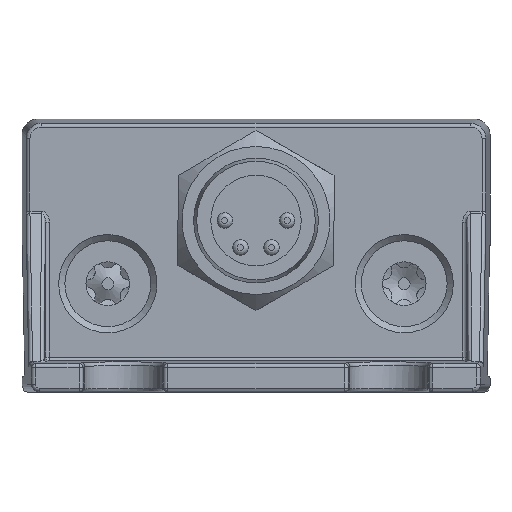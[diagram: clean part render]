
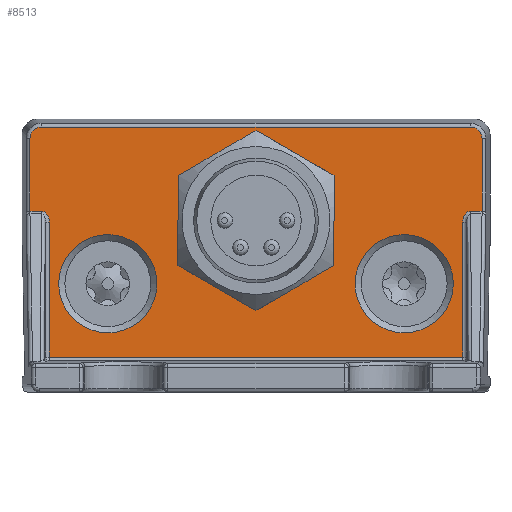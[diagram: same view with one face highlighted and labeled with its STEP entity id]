
A CAD part, front view. The second image highlights one B-rep face of the part: STEP entity #8513.
In plain terms, the highlighted planar face has unit normal (0, -1, 0).
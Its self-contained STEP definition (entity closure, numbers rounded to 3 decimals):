
#218=ELLIPSE('',#9087,0.707,0.5);
#219=ELLIPSE('',#9088,0.707,0.5);
#220=ELLIPSE('',#9089,0.75,0.75);
#221=ELLIPSE('',#9090,0.75,0.75);
#586=FACE_BOUND('',#1337,.T.);
#587=FACE_BOUND('',#1338,.T.);
#588=FACE_BOUND('',#1339,.T.);
#622=PLANE('',#9086);
#831=FACE_OUTER_BOUND('',#1336,.T.);
#1336=EDGE_LOOP('',(#5615,#5616,#5617,#5618,#5619,#5620,#5621,#5622,#5623,
#5624,#5625,#5626));
#1337=EDGE_LOOP('',(#5627,#5628,#5629,#5630,#5631,#5632));
#1338=EDGE_LOOP('',(#5633));
#1339=EDGE_LOOP('',(#5634));
#1811=LINE('',#12488,#2417);
#1814=LINE('',#12493,#2420);
#1816=LINE('',#12497,#2422);
#1818=LINE('',#12501,#2424);
#1819=LINE('',#12504,#2425);
#1821=LINE('',#12507,#2427);
#1892=LINE('',#12882,#2498);
#1893=LINE('',#12884,#2499);
#1894=LINE('',#12886,#2500);
#1895=LINE('',#12890,#2501);
#1896=LINE('',#12892,#2502);
#1897=LINE('',#12896,#2503);
#1898=LINE('',#12900,#2504);
#1899=LINE('',#12901,#2505);
#2417=VECTOR('',#9955,10.);
#2420=VECTOR('',#9960,10.);
#2422=VECTOR('',#9964,10.);
#2424=VECTOR('',#9968,10.);
#2425=VECTOR('',#9971,10.);
#2427=VECTOR('',#9975,10.);
#2498=VECTOR('',#10218,1.);
#2499=VECTOR('',#10219,1.);
#2500=VECTOR('',#10220,1.);
#2501=VECTOR('',#10223,1.);
#2502=VECTOR('',#10224,1.);
#2503=VECTOR('',#10227,1.);
#2504=VECTOR('',#10230,1.);
#2505=VECTOR('',#10231,1.);
#3062=CIRCLE('',#9073,3.15);
#3065=CIRCLE('',#9077,3.15);
#3384=VERTEX_POINT('',#12485);
#3385=VERTEX_POINT('',#12487);
#3386=VERTEX_POINT('',#12491);
#3387=VERTEX_POINT('',#12495);
#3388=VERTEX_POINT('',#12499);
#3389=VERTEX_POINT('',#12503);
#3463=VERTEX_POINT('',#12798);
#3466=VERTEX_POINT('',#12806);
#3497=VERTEX_POINT('',#12878);
#3498=VERTEX_POINT('',#12879);
#3499=VERTEX_POINT('',#12881);
#3500=VERTEX_POINT('',#12883);
#3501=VERTEX_POINT('',#12885);
#3502=VERTEX_POINT('',#12887);
#3503=VERTEX_POINT('',#12889);
#3504=VERTEX_POINT('',#12891);
#3505=VERTEX_POINT('',#12893);
#3506=VERTEX_POINT('',#12895);
#3507=VERTEX_POINT('',#12897);
#3508=VERTEX_POINT('',#12899);
#4168=EDGE_CURVE('',#3385,#3384,#1811,.T.);
#4171=EDGE_CURVE('',#3384,#3386,#1814,.T.);
#4173=EDGE_CURVE('',#3386,#3387,#1816,.T.);
#4175=EDGE_CURVE('',#3387,#3388,#1818,.T.);
#4176=EDGE_CURVE('',#3389,#3385,#1819,.T.);
#4178=EDGE_CURVE('',#3388,#3389,#1821,.T.);
#4264=EDGE_CURVE('',#3463,#3463,#3062,.T.);
#4268=EDGE_CURVE('',#3466,#3466,#3065,.T.);
#4303=EDGE_CURVE('',#3497,#3498,#218,.T.);
#4304=EDGE_CURVE('',#3499,#3497,#1892,.T.);
#4305=EDGE_CURVE('',#3499,#3500,#1893,.T.);
#4306=EDGE_CURVE('',#3501,#3500,#1894,.T.);
#4307=EDGE_CURVE('',#3502,#3501,#219,.T.);
#4308=EDGE_CURVE('',#3502,#3503,#1895,.T.);
#4309=EDGE_CURVE('',#3503,#3504,#1896,.T.);
#4310=EDGE_CURVE('',#3504,#3505,#220,.T.);
#4311=EDGE_CURVE('',#3505,#3506,#1897,.T.);
#4312=EDGE_CURVE('',#3506,#3507,#221,.T.);
#4313=EDGE_CURVE('',#3507,#3508,#1898,.T.);
#4314=EDGE_CURVE('',#3508,#3498,#1899,.T.);
#5615=ORIENTED_EDGE('',*,*,#4303,.F.);
#5616=ORIENTED_EDGE('',*,*,#4304,.F.);
#5617=ORIENTED_EDGE('',*,*,#4305,.T.);
#5618=ORIENTED_EDGE('',*,*,#4306,.F.);
#5619=ORIENTED_EDGE('',*,*,#4307,.F.);
#5620=ORIENTED_EDGE('',*,*,#4308,.T.);
#5621=ORIENTED_EDGE('',*,*,#4309,.T.);
#5622=ORIENTED_EDGE('',*,*,#4310,.T.);
#5623=ORIENTED_EDGE('',*,*,#4311,.T.);
#5624=ORIENTED_EDGE('',*,*,#4312,.T.);
#5625=ORIENTED_EDGE('',*,*,#4313,.T.);
#5626=ORIENTED_EDGE('',*,*,#4314,.T.);
#5627=ORIENTED_EDGE('',*,*,#4168,.T.);
#5628=ORIENTED_EDGE('',*,*,#4171,.T.);
#5629=ORIENTED_EDGE('',*,*,#4173,.T.);
#5630=ORIENTED_EDGE('',*,*,#4175,.T.);
#5631=ORIENTED_EDGE('',*,*,#4178,.T.);
#5632=ORIENTED_EDGE('',*,*,#4176,.T.);
#5633=ORIENTED_EDGE('',*,*,#4264,.T.);
#5634=ORIENTED_EDGE('',*,*,#4268,.T.);
#8513=ADVANCED_FACE('',(#831,#586,#587,#588),#622,.T.);
#9073=AXIS2_PLACEMENT_3D('',#12800,#10157,#10158);
#9077=AXIS2_PLACEMENT_3D('',#12808,#10166,#10167);
#9086=AXIS2_PLACEMENT_3D('',#12877,#10214,#10215);
#9087=AXIS2_PLACEMENT_3D('',#12880,#10216,#10217);
#9088=AXIS2_PLACEMENT_3D('',#12888,#10221,#10222);
#9089=AXIS2_PLACEMENT_3D('',#12894,#10225,#10226);
#9090=AXIS2_PLACEMENT_3D('',#12898,#10228,#10229);
#9955=DIRECTION('',(0.,0.,-1.));
#9960=DIRECTION('',(-0.866,0.,-0.5));
#9964=DIRECTION('',(-0.866,0.,0.5));
#9968=DIRECTION('',(0.,0.,1.));
#9971=DIRECTION('',(0.866,0.,-0.5));
#9975=DIRECTION('',(0.866,0.,0.5));
#10157=DIRECTION('center_axis',(0.,1.,0.));
#10158=DIRECTION('ref_axis',(0.,0.,
-1.));
#10166=DIRECTION('center_axis',(0.,1.,0.));
#10167=DIRECTION('ref_axis',(0.,0.,
-1.));
#10214=DIRECTION('center_axis',(0.,-1.,0.));
#10215=DIRECTION('ref_axis',(0.,0.,
1.));
#10216=DIRECTION('center_axis',(0.,-1.,0.));
#10217=DIRECTION('ref_axis',(0.009,0.,
1.));
#10218=DIRECTION('',(0.,0.,1.));
#10219=DIRECTION('',(1.,0.,0.));
#10220=DIRECTION('',(0.,0.,-1.));
#10221=DIRECTION('center_axis',(0.,-1.,0.));
#10222=DIRECTION('ref_axis',(-0.009,0.,
1.));
#10223=DIRECTION('',(1.,0.,0.));
#10224=DIRECTION('',(0.,0.,1.));
#10225=DIRECTION('center_axis',(0.,-1.,0.));
#10226=DIRECTION('ref_axis',(0.707,0.,0.707));
#10227=DIRECTION('',(-1.,0.,0.));
#10228=DIRECTION('center_axis',(0.,-1.,0.));
#10229=DIRECTION('ref_axis',(-0.707,0.,0.707));
#10230=DIRECTION('',(0.,0.,-1.));
#10231=DIRECTION('',(1.,0.,0.));
#12485=CARTESIAN_POINT('',(-33.127,-212.291,-12.18));
#12487=CARTESIAN_POINT('',(-33.127,-212.291,-6.406));
#12488=CARTESIAN_POINT('',(-33.127,-212.291,-11.861));
#12491=CARTESIAN_POINT('',(-38.127,-212.291,-15.066));
#12493=CARTESIAN_POINT('',(-37.364,-212.291,-14.626));
#12495=CARTESIAN_POINT('',(-43.127,-212.291,-12.179));
#12497=CARTESIAN_POINT('',(-41.39,-212.291,-13.182));
#12499=CARTESIAN_POINT('',(-43.127,-212.291,-6.405));
#12501=CARTESIAN_POINT('',(-43.127,-212.291,-8.974));
#12503=CARTESIAN_POINT('',(-38.127,-212.291,-3.519));
#12504=CARTESIAN_POINT('',(-33.889,-212.291,-5.966));
#12507=CARTESIAN_POINT('',(-39.864,-212.291,-4.522));
#12798=CARTESIAN_POINT('',(-47.627,-212.291,-16.492));
#12800=CARTESIAN_POINT('Origin',(-47.627,-212.291,-13.342));
#12806=CARTESIAN_POINT('',(-28.627,-212.291,-16.492));
#12808=CARTESIAN_POINT('Origin',(-28.627,-212.291,-13.342));
#12877=CARTESIAN_POINT('Origin',(-38.127,-212.291,-11.542));
#12878=CARTESIAN_POINT('',(-51.379,-212.291,-9.392));
#12879=CARTESIAN_POINT('',(-51.876,-212.291,-8.689));
#12880=CARTESIAN_POINT('Origin',(-51.879,-212.291,-9.396));
#12881=CARTESIAN_POINT('',(-51.379,-212.291,-18.045));
#12882=CARTESIAN_POINT('',(-51.379,-212.291,-11.542));
#12883=CARTESIAN_POINT('',(-24.875,-212.291,-18.045));
#12884=CARTESIAN_POINT('',(-24.627,-212.291,-18.045));
#12885=CARTESIAN_POINT('',(-24.875,-212.291,-9.392));
#12886=CARTESIAN_POINT('',(-24.875,-212.291,-11.542));
#12887=CARTESIAN_POINT('',(-24.378,-212.291,-8.689));
#12888=CARTESIAN_POINT('Origin',(-24.375,-212.291,-9.396));
#12889=CARTESIAN_POINT('',(-23.634,-212.291,-8.689));
#12890=CARTESIAN_POINT('',(-23.389,-212.291,-8.689));
#12891=CARTESIAN_POINT('',(-23.634,-212.291,-4.05));
#12892=CARTESIAN_POINT('',(-23.634,-212.291,-11.542));
#12893=CARTESIAN_POINT('',(-24.384,-212.291,-3.3));
#12894=CARTESIAN_POINT('Origin',(-24.385,-212.291,-4.05));
#12895=CARTESIAN_POINT('',(-51.87,-212.291,-3.3));
#12896=CARTESIAN_POINT('',(-38.127,-212.291,-3.3));
#12897=CARTESIAN_POINT('',(-52.619,-212.291,-4.05));
#12898=CARTESIAN_POINT('Origin',(-51.869,-212.291,-4.05));
#12899=CARTESIAN_POINT('',(-52.619,-212.291,-8.689));
#12900=CARTESIAN_POINT('',(-52.619,-212.291,-11.542));
#12901=CARTESIAN_POINT('',(-51.627,-212.291,-8.689));
